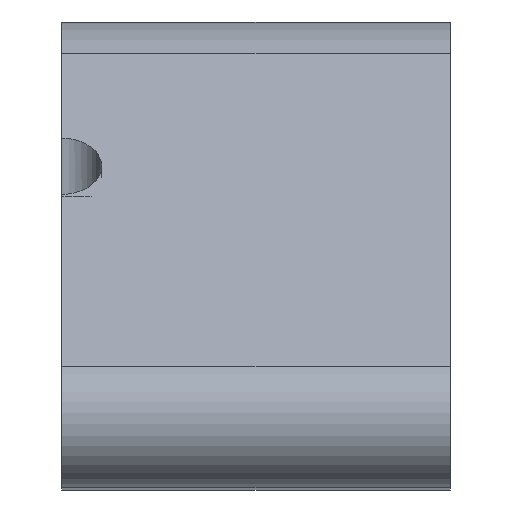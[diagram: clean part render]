
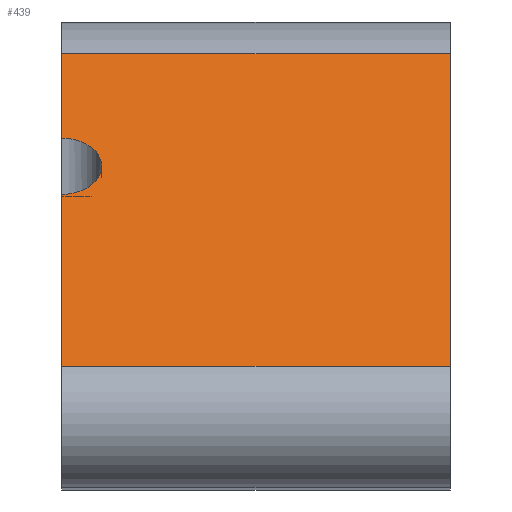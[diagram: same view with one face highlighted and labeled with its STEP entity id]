
A CAD part, top view. The second image highlights one B-rep face of the part: STEP entity #439.
In plain terms, the highlighted planar face has unit normal (0, 0.818, 0.575).
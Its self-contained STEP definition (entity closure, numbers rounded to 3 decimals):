
#62=CARTESIAN_POINT('Line Origine',(10.,-8.763,201.124)) ;
#66=CARTESIAN_POINT('Vertex',(0.,-8.763,201.124)) ;
#68=CARTESIAN_POINT('Vertex',(20.,-8.763,201.124)) ;
#177=CARTESIAN_POINT('Vertex',(0.,7.364,178.174)) ;
#180=CARTESIAN_POINT('Line Origine',(10.,7.364,178.174)) ;
#184=CARTESIAN_POINT('Vertex',(20.,7.364,178.174)) ;
#204=CARTESIAN_POINT('Line Origine',(20.,-0.699,189.649)) ;
#280=CARTESIAN_POINT('Vertex',(0.,0.103,188.508)) ;
#296=CARTESIAN_POINT('Vertex',(0.,3.008,184.374)) ;
#299=CARTESIAN_POINT('Line Origine',(0.,5.186,181.274)) ;
#337=CARTESIAN_POINT('Line Origine',(0.,-4.33,194.816)) ;
#389=CARTESIAN_POINT('Axis2P3D Location',(0.,7.364,178.174)) ;
#395=CARTESIAN_POINT('Control Point',(0.,3.008,184.374)) ;
#396=CARTESIAN_POINT('Control Point',(0.203,3.008,184.374)) ;
#397=CARTESIAN_POINT('Control Point',(0.405,2.99,184.398)) ;
#398=CARTESIAN_POINT('Control Point',(0.601,2.955,184.448)) ;
#399=CARTESIAN_POINT('Control Point',(0.903,2.874,184.564)) ;
#400=CARTESIAN_POINT('Control Point',(1.168,2.758,184.729)) ;
#401=CARTESIAN_POINT('Control Point',(1.264,2.709,184.799)) ;
#402=CARTESIAN_POINT('Control Point',(1.56,2.534,185.048)) ;
#403=CARTESIAN_POINT('Control Point',(1.782,2.323,185.348)) ;
#404=CARTESIAN_POINT('Control Point',(1.9,2.166,185.572)) ;
#405=CARTESIAN_POINT('Control Point',(2.009,1.947,185.882)) ;
#406=CARTESIAN_POINT('Control Point',(2.055,1.723,186.201)) ;
#407=CARTESIAN_POINT('Control Point',(2.063,1.667,186.281)) ;
#408=CARTESIAN_POINT('Control Point',(2.067,1.611,186.361)) ;
#409=CARTESIAN_POINT('Control Point',(2.067,1.555,186.441)) ;
#410=CARTESIAN_POINT('Vertex',(2.067,1.555,186.441)) ;
#414=CARTESIAN_POINT('Control Point',(0.,0.103,188.508)) ;
#415=CARTESIAN_POINT('Control Point',(0.203,0.103,188.508)) ;
#416=CARTESIAN_POINT('Control Point',(0.405,0.12,188.483)) ;
#417=CARTESIAN_POINT('Control Point',(0.601,0.155,188.433)) ;
#418=CARTESIAN_POINT('Control Point',(0.903,0.237,188.317)) ;
#419=CARTESIAN_POINT('Control Point',(1.168,0.352,188.152)) ;
#420=CARTESIAN_POINT('Control Point',(1.264,0.402,188.082)) ;
#421=CARTESIAN_POINT('Control Point',(1.56,0.576,187.833)) ;
#422=CARTESIAN_POINT('Control Point',(1.782,0.787,187.534)) ;
#423=CARTESIAN_POINT('Control Point',(1.9,0.945,187.31)) ;
#424=CARTESIAN_POINT('Control Point',(2.009,1.163,186.999)) ;
#425=CARTESIAN_POINT('Control Point',(2.055,1.387,186.68)) ;
#426=CARTESIAN_POINT('Control Point',(2.063,1.443,186.6)) ;
#427=CARTESIAN_POINT('Control Point',(2.067,1.499,186.521)) ;
#428=CARTESIAN_POINT('Control Point',(2.067,1.555,186.441)) ;
#63=DIRECTION('Vector Direction',(1.,0.,0.)) ;
#181=DIRECTION('Vector Direction',(1.,0.,0.)) ;
#205=DIRECTION('Vector Direction',(0.,-0.575,0.818)) ;
#300=DIRECTION('Vector Direction',(0.,-0.575,0.818)) ;
#338=DIRECTION('Vector Direction',(0.,-0.575,0.818)) ;
#390=DIRECTION('Axis2P3D Direction',(-0.,0.818,0.575)) ;
#391=DIRECTION('Axis2P3D XDirection',(0.,-0.575,0.818)) ;
#392=AXIS2_PLACEMENT_3D('Plane Axis2P3D',#389,#390,#391) ;
#431=ORIENTED_EDGE('',*,*,#341,.T.) ;
#432=ORIENTED_EDGE('',*,*,#70,.T.) ;
#433=ORIENTED_EDGE('',*,*,#208,.F.) ;
#434=ORIENTED_EDGE('',*,*,#186,.F.) ;
#435=ORIENTED_EDGE('',*,*,#303,.T.) ;
#436=ORIENTED_EDGE('',*,*,#412,.T.) ;
#437=ORIENTED_EDGE('',*,*,#429,.F.) ;
#64=VECTOR('Line Direction',#63,1.) ;
#182=VECTOR('Line Direction',#181,1.) ;
#206=VECTOR('Line Direction',#205,1.) ;
#301=VECTOR('Line Direction',#300,1.) ;
#339=VECTOR('Line Direction',#338,1.) ;
#439=ADVANCED_FACE('MAIN',(#438),#393,.T.) ;
#394=B_SPLINE_CURVE_WITH_KNOTS('',5,(#395,#396,#397,#398,#399,#400,#401,#402,#403,#404,#405,#406,#407,#408,#409),.UNSPECIFIED.,.F.,.U.,(6,3,3,3,6),(0.,1.432,2.341,4.424,5.114),.UNSPECIFIED.) ;
#413=B_SPLINE_CURVE_WITH_KNOTS('',5,(#414,#415,#416,#417,#418,#419,#420,#421,#422,#423,#424,#425,#426,#427,#428),.UNSPECIFIED.,.F.,.U.,(6,3,3,3,6),(0.,1.432,2.341,4.424,5.114),.UNSPECIFIED.) ;
#70=EDGE_CURVE('',#67,#69,#65,.T.) ;
#186=EDGE_CURVE('',#178,#185,#183,.T.) ;
#208=EDGE_CURVE('',#185,#69,#207,.T.) ;
#303=EDGE_CURVE('',#178,#297,#302,.T.) ;
#341=EDGE_CURVE('',#281,#67,#340,.T.) ;
#412=EDGE_CURVE('',#297,#411,#394,.T.) ;
#429=EDGE_CURVE('',#281,#411,#413,.T.) ;
#430=EDGE_LOOP('',(#431,#432,#433,#434,#435,#436,#437)) ;
#438=FACE_OUTER_BOUND('',#430,.T.) ;
#65=LINE('Line',#62,#64) ;
#183=LINE('Line',#180,#182) ;
#207=LINE('Line',#204,#206) ;
#302=LINE('Line',#299,#301) ;
#340=LINE('Line',#337,#339) ;
#393=PLANE('',#392) ;
#67=VERTEX_POINT('',#66) ;
#69=VERTEX_POINT('',#68) ;
#178=VERTEX_POINT('',#177) ;
#185=VERTEX_POINT('',#184) ;
#281=VERTEX_POINT('',#280) ;
#297=VERTEX_POINT('',#296) ;
#411=VERTEX_POINT('',#410) ;
